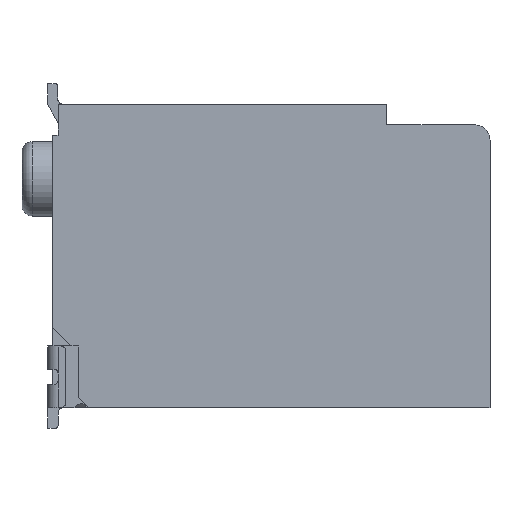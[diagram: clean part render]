
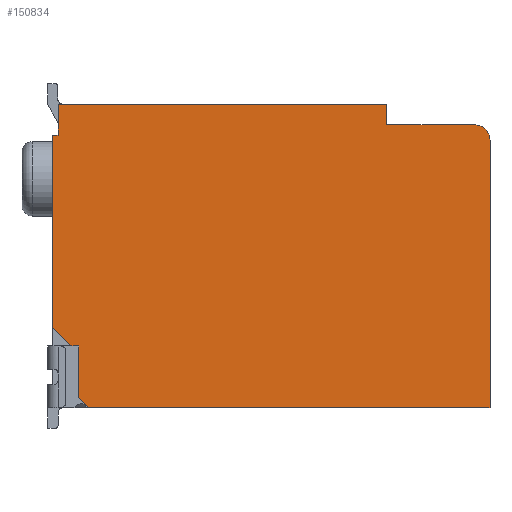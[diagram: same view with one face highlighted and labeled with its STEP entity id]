
A CAD part, front view. The second image highlights one B-rep face of the part: STEP entity #150834.
In plain terms, the highlighted planar face has unit normal (0, -1, 0).
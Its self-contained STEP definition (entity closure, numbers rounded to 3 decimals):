
#18=DIRECTION('',(0.,0.,-1.));
#19=VECTOR('',#18,3.75);
#20=CARTESIAN_POINT('',(0.,-10.925,2.35));
#21=LINE('',#20,#19);
#1348=DIRECTION('',(0.,0.,-1.));
#1349=VECTOR('',#1348,5.2);
#1350=CARTESIAN_POINT('',(8.5,-10.925,2.25));
#1351=LINE('',#1350,#1349);
#1371=CARTESIAN_POINT('',(8.2,-10.925,2.25));
#1372=DIRECTION('',(0.,-1.,0.));
#1373=DIRECTION('',(1.,0.,0.));
#1374=AXIS2_PLACEMENT_3D('',#1371,#1372,#1373);
#1376=DIRECTION('',(0.707,0.,-0.707));
#1377=VECTOR('',#1376,0.283);
#1378=CARTESIAN_POINT('',(0.5,-10.925,-2.75));
#1379=LINE('',#1378,#1377);
#1380=DIRECTION('',(0.,0.,1.));
#1381=VECTOR('',#1380,1.);
#1382=CARTESIAN_POINT('',(0.5,-10.925,-2.75));
#1383=LINE('',#1382,#1381);
#1384=DIRECTION('',(1.,0.,0.));
#1385=VECTOR('',#1384,0.15);
#1386=CARTESIAN_POINT('',(0.35,-10.925,-1.75));
#1387=LINE('',#1386,#1385);
#1388=DIRECTION('',(0.707,0.,-0.707));
#1389=VECTOR('',#1388,0.495);
#1390=CARTESIAN_POINT('',(0.,-10.925,-1.4));
#1391=LINE('',#1390,#1389);
#1392=DIRECTION('',(1.,0.,0.));
#1393=VECTOR('',#1392,0.1);
#1394=CARTESIAN_POINT('',(0.,-10.925,2.35));
#1395=LINE('',#1394,#1393);
#1396=DIRECTION('',(0.,0.,-1.));
#1397=VECTOR('',#1396,0.6);
#1398=CARTESIAN_POINT('',(0.1,-10.925,2.95));
#1399=LINE('',#1398,#1397);
#1400=DIRECTION('',(1.,0.,0.));
#1401=VECTOR('',#1400,6.39);
#1402=CARTESIAN_POINT('',(0.1,-10.925,2.95));
#1403=LINE('',#1402,#1401);
#1404=DIRECTION('',(0.,0.,-1.));
#1405=VECTOR('',#1404,0.4);
#1406=CARTESIAN_POINT('',(6.49,-10.925,2.95));
#1407=LINE('',#1406,#1405);
#1408=DIRECTION('',(-1.,0.,0.));
#1409=VECTOR('',#1408,1.71);
#1410=CARTESIAN_POINT('',(8.2,-10.925,2.55));
#1411=LINE('',#1410,#1409);
#1420=DIRECTION('',(1.,0.,0.));
#1421=VECTOR('',#1420,7.8);
#1422=CARTESIAN_POINT('',(0.7,-10.925,-2.95));
#1423=LINE('',#1422,#1421);
#114366=CARTESIAN_POINT('',(8.5,-10.925,-2.95));
#114368=VERTEX_POINT('',#114366);
#114374=CARTESIAN_POINT('',(6.49,-10.925,2.95));
#114375=CARTESIAN_POINT('',(6.49,-10.925,2.55));
#114376=VERTEX_POINT('',#114374);
#114377=VERTEX_POINT('',#114375);
#114540=CARTESIAN_POINT('',(0.5,-10.925,-1.75));
#114542=VERTEX_POINT('',#114540);
#114544=CARTESIAN_POINT('',(0.,-10.925,-1.4));
#114546=VERTEX_POINT('',#114544);
#114548=CARTESIAN_POINT('',(0.35,-10.925,-1.75));
#114549=VERTEX_POINT('',#114548);
#114563=CARTESIAN_POINT('',(0.,-10.925,2.35));
#114565=VERTEX_POINT('',#114563);
#114570=CARTESIAN_POINT('',(0.1,-10.925,2.95));
#114571=CARTESIAN_POINT('',(0.1,-10.925,2.35));
#114572=VERTEX_POINT('',#114570);
#114573=VERTEX_POINT('',#114571);
#114632=CARTESIAN_POINT('',(0.5,-10.925,-2.75));
#114633=CARTESIAN_POINT('',(0.7,-10.925,-2.95));
#114634=VERTEX_POINT('',#114632);
#114635=VERTEX_POINT('',#114633);
#124986=CARTESIAN_POINT('',(8.5,-10.925,2.25));
#124987=CARTESIAN_POINT('',(8.2,-10.925,2.55));
#124988=VERTEX_POINT('',#124986);
#124989=VERTEX_POINT('',#124987);
#150805=CARTESIAN_POINT('',(0.,-10.925,2.95));
#150806=DIRECTION('',(0.,-1.,0.));
#150807=DIRECTION('',(0.,0.,-1.));
#150808=AXIS2_PLACEMENT_3D('',#150805,#150806,#150807);
#150809=PLANE('',#150808);
#150810=ORIENTED_EDGE('',*,*,#150791,.F.);
#150811=ORIENTED_EDGE('',*,*,#150729,.T.);
#150813=ORIENTED_EDGE('',*,*,#150812,.F.);
#150815=ORIENTED_EDGE('',*,*,#150814,.F.);
#150817=ORIENTED_EDGE('',*,*,#150816,.T.);
#150819=ORIENTED_EDGE('',*,*,#150818,.F.);
#150821=ORIENTED_EDGE('',*,*,#150820,.F.);
#150822=ORIENTED_EDGE('',*,*,#149802,.F.);
#150823=ORIENTED_EDGE('',*,*,#149992,.T.);
#150825=ORIENTED_EDGE('',*,*,#150824,.F.);
#150827=ORIENTED_EDGE('',*,*,#150826,.T.);
#150829=ORIENTED_EDGE('',*,*,#150828,.T.);
#150831=ORIENTED_EDGE('',*,*,#150830,.F.);
#150832=EDGE_LOOP('',(#150810,#150811,#150813,#150815,#150817,#150819,#150821,
#150822,#150823,#150825,#150827,#150829,#150831));
#150833=FACE_OUTER_BOUND('',#150832,.F.);
#1375=CIRCLE('',#1374,0.3);
#149802=EDGE_CURVE('',#114565,#114546,#21,.T.);
#149992=EDGE_CURVE('',#114565,#114573,#1395,.T.);
#150729=EDGE_CURVE('',#124988,#114368,#1351,.T.);
#150791=EDGE_CURVE('',#124988,#124989,#1375,.T.);
#150812=EDGE_CURVE('',#114635,#114368,#1423,.T.);
#150814=EDGE_CURVE('',#114634,#114635,#1379,.T.);
#150816=EDGE_CURVE('',#114634,#114542,#1383,.T.);
#150818=EDGE_CURVE('',#114549,#114542,#1387,.T.);
#150820=EDGE_CURVE('',#114546,#114549,#1391,.T.);
#150824=EDGE_CURVE('',#114572,#114573,#1399,.T.);
#150826=EDGE_CURVE('',#114572,#114376,#1403,.T.);
#150828=EDGE_CURVE('',#114376,#114377,#1407,.T.);
#150830=EDGE_CURVE('',#124989,#114377,#1411,.T.);
#150834=ADVANCED_FACE('',(#150833),#150809,.T.);
